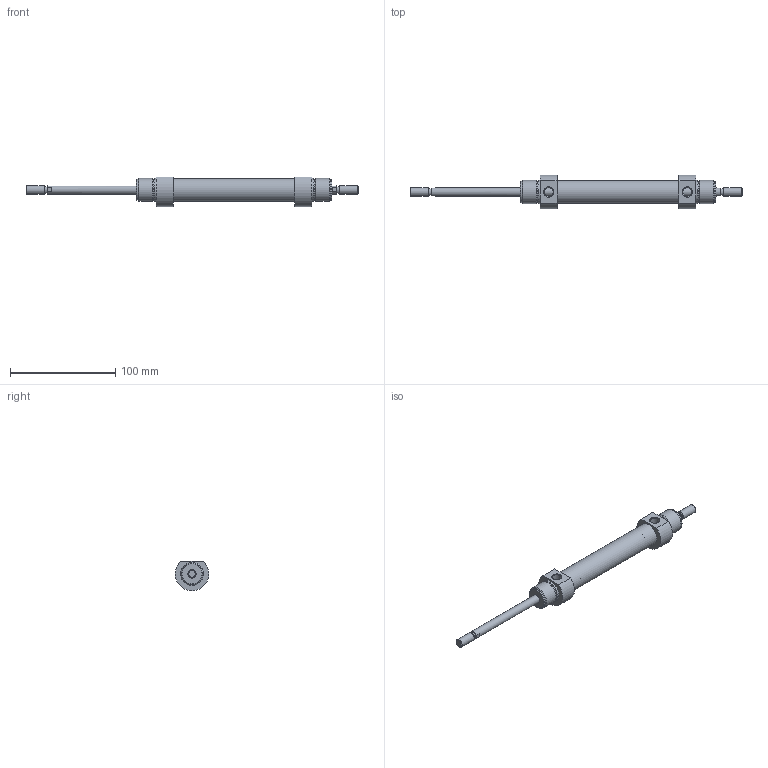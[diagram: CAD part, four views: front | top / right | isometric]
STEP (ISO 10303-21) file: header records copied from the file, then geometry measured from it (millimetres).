
FILE_DESCRIPTION( ( 'STEP AP203' ), '1' );
FILE_NAME( '//expscmdclustefs.cadenas.external/client_exchange/iodir/jobs/output/wkb68460695_no0/STEP/M101-020-0080-M__0__2_03.stp', ' ', ( ' ' ), ( ' ' ), 'PSStep 15.0.47', 'PARTsolutions', ' ' );
FILE_SCHEMA( ( 'CONFIG_CONTROL_DESIGN' ) );
Length unit declared in the file: millimetre
Products named in the file (3): M101-020-0080-M [0]; HI_M101-020-0080-M-[0]-z; HI_M101-020-0080-M-[0]-k
Assembly tree (2 placements, depth 2):
  M101-020-0080-M [0]
    HI_M101-020-0080-M-[0]-z
    HI_M101-020-0080-M-[0]-k
Bounding box: 316 x 32 x 28 mm (x, y, z)
Volume: 64684.4 mm3; surface area: 33470.9 mm2
Topology: 2 solids, 2 shells, 65 faces, 129 edges, 80 vertices
Faces by surface type: plane 26, cylinder 23, cone 14, torus 2
Full cylindrical faces by diameter (mm): 6.466 x2, 8 x6, 8.566 x2, 20 x2, 20.16 x4, 21.6 x1, 22 x4
Entity records: 1702 total; most frequent: CARTESIAN_POINT 356, DIRECTION 280, ORIENTED_EDGE 184, AXIS2_PLACEMENT_3D 128, EDGE_LOOP 116, EDGE_CURVE 92, FACE_OUTER_BOUND 88, VERTEX_POINT 76
